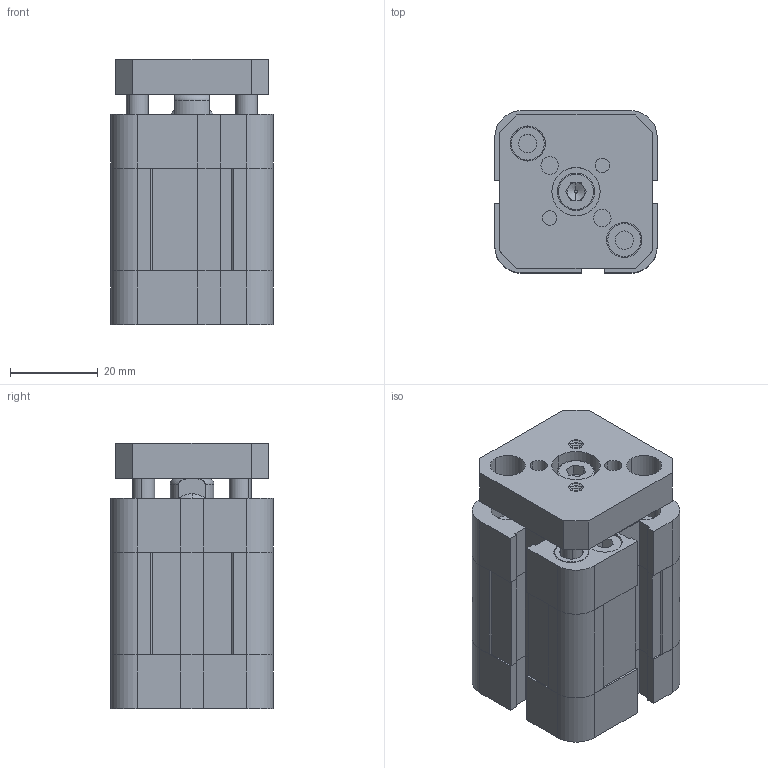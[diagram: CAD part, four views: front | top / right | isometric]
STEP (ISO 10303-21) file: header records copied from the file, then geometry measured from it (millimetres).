
FILE_DESCRIPTION (( 'STEP AP203' ), '1' );
FILE_NAME ('NSKU020.0010 F AR.STEP', '2010-06-16T13:16:57', ( 'Vesta Automation srl' ), ( 'Vesta Automation srl' ), 'SwSTEP 2.0', 'SolidWorks 2009', '' );
FILE_SCHEMA (( 'CONFIG_CONTROL_DESIGN' ));
Length unit declared in the file: millimetre
Products named in the file (7): REAR END CAP-NSKU 20; BARREL-NSKU20AR_STROKE 0010; NSKU020.0010 F AR; FRONT END CAP-NSKU 20 AR; ANTI ROTATION PLATE-NSKU20AR; PISTON ROD-NSKU 020 F_STROKE 0010; ANTI ROTATION STEEM-NSKU20AR_STROKE 0010
Assembly tree (7 placements, depth 2):
  NSKU020.0010 F AR
    BARREL-NSKU20AR_STROKE 0010
    ANTI ROTATION STEEM-NSKU20AR_STROKE 0010  x2
    REAR END CAP-NSKU 20
    PISTON ROD-NSKU 020 F_STROKE 0010
    FRONT END CAP-NSKU 20 AR
    ANTI ROTATION PLATE-NSKU20AR
Bounding box: 37 x 37 x 60.5 mm (x, y, z)
Volume: 61359.4 mm3; surface area: 29720.9 mm2
Topology: 8 solids, 8 shells, 667 faces, 1608 edges, 997 vertices
Faces by surface type: plane 318, cone 209, cylinder 136, torus 4
Entity records: 19960 total; most frequent: DIRECTION 3413, CARTESIAN_POINT 3343, ORIENTED_EDGE 3196, EDGE_CURVE 1598, AXIS2_PLACEMENT_3D 1151, VECTOR 1111, LINE 1111, VERTEX_POINT 991
